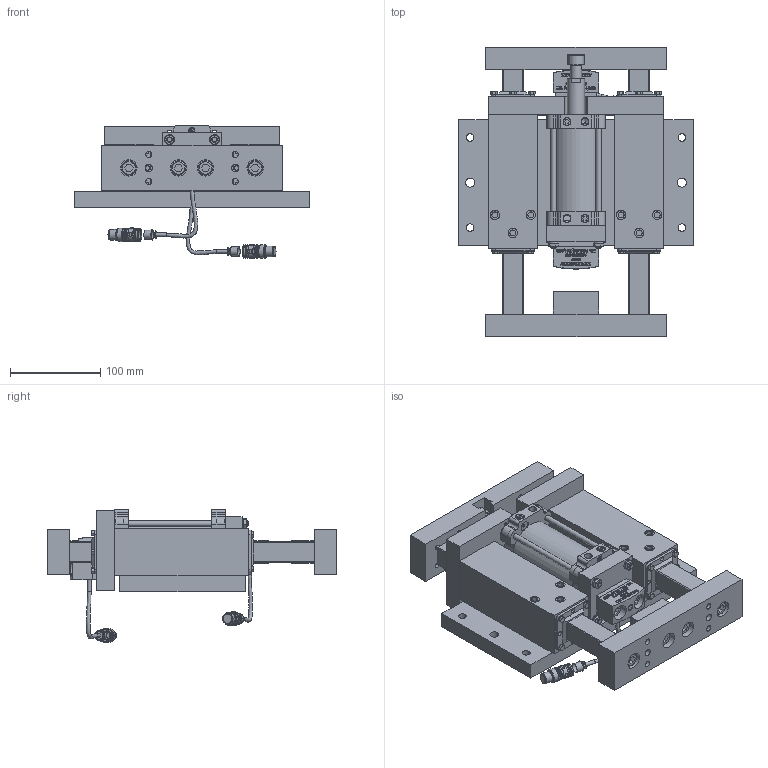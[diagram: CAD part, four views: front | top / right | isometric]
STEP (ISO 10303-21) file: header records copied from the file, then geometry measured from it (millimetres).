
FILE_DESCRIPTION(/* description */ (''),/* implementation_level */ '2;1');
FILE_NAME(/* name */ 'C:\Vault Workspace\CAD\Welker\Shot Pin\DBL24\STANDARD\DB2025B01XP1XXX0000-RET.stp',/* time_stamp */ '2018-03-26T07:08:36-04:00',/* author */ ('KLabrecque'),/* organization */ (''),/* preprocessor_version */ 'ST-DEVELOPER v17',/* originating_system */ 'Autodesk Inventor 2018',/* authorisation */ '');
FILE_SCHEMA (('AUTOMOTIVE_DESIGN { 1 0 10303 214 3 1 1 }'));
Products named in the file (1): DB2L01_Shrinkwrap_1
Bounding box: 260 x 321 x 147.3 mm (x, y, z)
Volume: 2821957.3 mm3; surface area: 667534.2 mm2
Topology: 113 solids, 113 shells, 3505 faces, 8808 edges, 5873 vertices
Faces by surface type: plane 1868, cylinder 619, bspline 554, cone 441, torus 23
Full cylindrical faces by diameter (mm): 2.5 x1, 3.175 x6, 3.734 x16, 4.064 x2, 4.166 x16, 4.2 x2, 4.763 x32, 4.917 x12, 5.359 x8, 6 x12, 6.35 x2, 6.5 x34, 6.63 x2, 6.647 x14, 7.95 x4, 8 x30, 8.13 x2, 8.334 x12, 8.376 x14, 8.5 x12, 8.7 x12, 9.728 x3, 10 x20, 10.211 x2, 10.287 x2, 10.35 x24, 10.494 x2, 10.5 x10, 10.7 x4, 10.8 x4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
Entity records: 114275 total; most frequent: CARTESIAN_POINT 29087, ORIENTED_EDGE 17504, DIRECTION 15220, EDGE_CURVE 8752, VERTEX_POINT 5873, AXIS2_PLACEMENT_3D 5186, LINE 4848, VECTOR 4848
